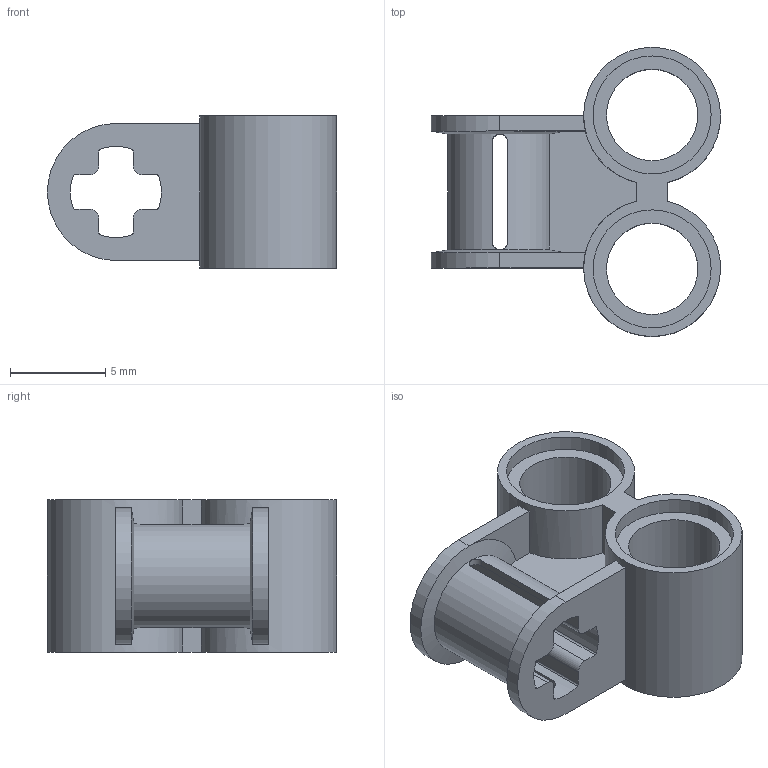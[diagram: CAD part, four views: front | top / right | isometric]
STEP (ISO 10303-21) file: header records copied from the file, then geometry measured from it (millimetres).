
FILE_DESCRIPTION(/* description */ ('Unknown'),/* implementation_level */ '2;1');
FILE_NAME(/* name */ 'Black_4140430_AVV',/* time_stamp */ '2025-07-21T23:45:38+02:00',/* author */ ('Unknown'),/* organization */ ('Unknown'),/* preprocessor_version */ 'ST-DEVELOPER v19.4',/* originating_system */ 'Solid Edge',/* authorisation */ 'Unknown');
FILE_SCHEMA (('AUTOMOTIVE_DESIGN {1 0 10303 214 3 1 1}'));
Length unit declared in the file: millimetre
Products named in the file (1): Black_4140430_AVV
Bounding box: 15.2 x 15.2 x 8 mm (x, y, z)
Volume: 491.5 mm3; surface area: 1091.6 mm2
Topology: 1 solids, 1 shells, 68 faces, 184 edges, 120 vertices
Faces by surface type: cylinder 33, plane 33, cone 2
Full cylindrical faces by diameter (mm): 4.8 x2, 6.2 x4
Entity records: 2194 total; most frequent: CARTESIAN_POINT 419, DIRECTION 370, ORIENTED_EDGE 356, EDGE_CURVE 178, AXIS2_PLACEMENT_3D 139, VERTEX_POINT 120, LINE 92, VECTOR 92
